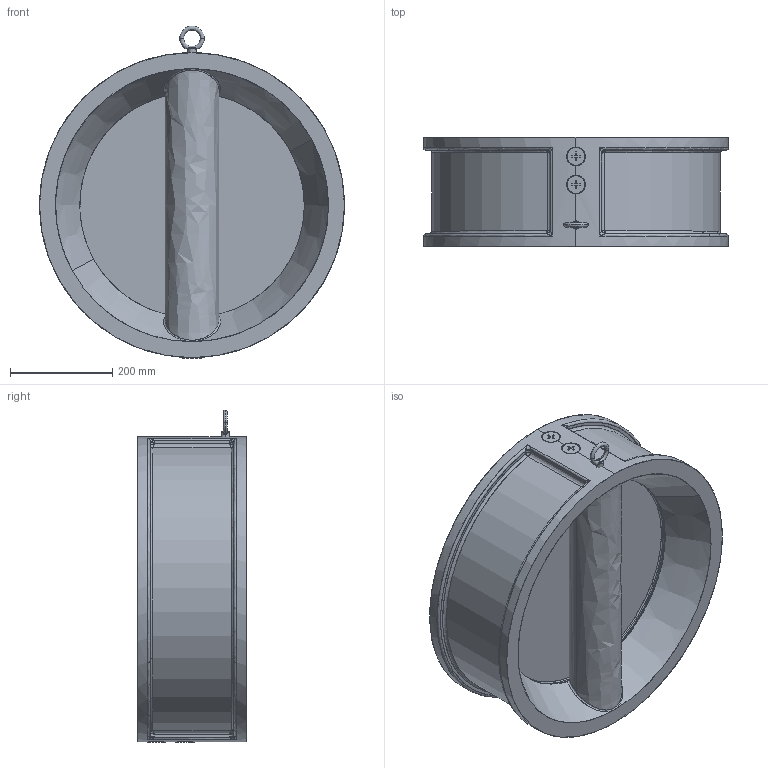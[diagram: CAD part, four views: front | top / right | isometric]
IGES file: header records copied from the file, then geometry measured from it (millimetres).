
Start section: SolidWorks IGES file using analytic representation for surfaces
Global section: file name: C:\Users\Administrator\Desktop\temp\00.IGS; native system: SolidWorks 2015; preprocessor: SolidWorks 2015; author: Administrator; date: 170404.083126; units: millimetre
Bounding box: 596 x 213 x 648.79 mm (x, y, z)
Surface area: 1835870.2 mm2 (no closed solid volume)
Topology: 0 solids, 0 shells, 474 faces, 6321 edges, 6294 vertices
Faces by surface type: bspline 303, revolution 171
